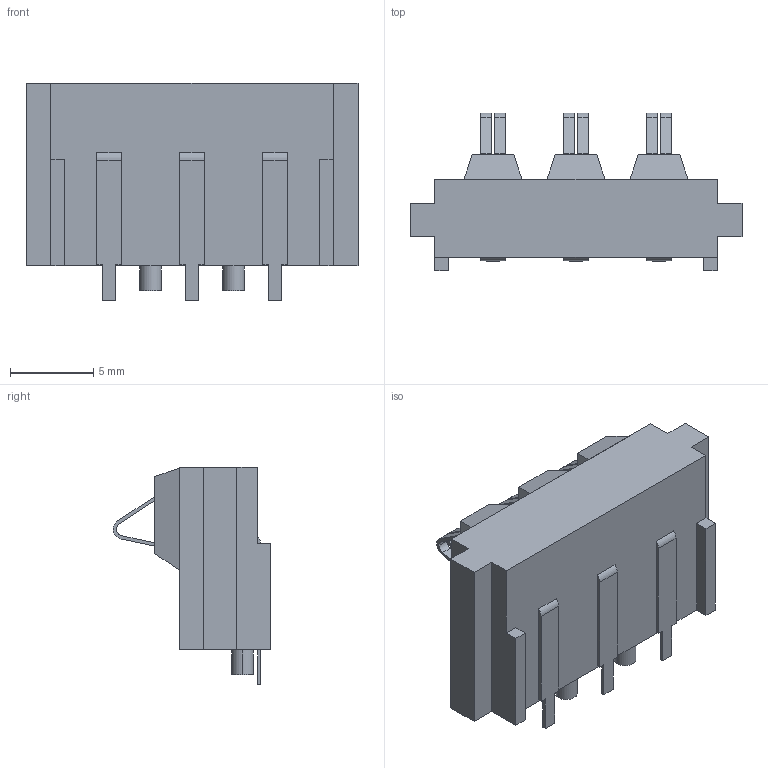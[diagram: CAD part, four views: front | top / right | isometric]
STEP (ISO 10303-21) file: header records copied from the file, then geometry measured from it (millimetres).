
FILE_DESCRIPTION (( 'STEP AP214' ), '1' );
FILE_NAME ('GC02-03-2F.STEP', '2026-06-23T02:43:55', ( '' ), ( '' ), 'SwSTEP 2.0', 'SolidWorks 2023', '' );
FILE_SCHEMA (( 'AUTOMOTIVE_DESIGN' ));
Length unit declared in the file: millimetre
Products named in the file (1): GC02-03-2F
Bounding box: 20 x 9.5 x 13.1 mm (x, y, z)
Volume: 1042 mm3; surface area: 881.8 mm2
Topology: 1 solids, 1 shells, 137 faces, 384 edges, 254 vertices
Faces by surface type: plane 100, cylinder 37
Entity records: 4431 total; most frequent: CARTESIAN_POINT 776, ORIENTED_EDGE 768, DIRECTION 734, EDGE_CURVE 384, VECTOR 310, LINE 310, VERTEX_POINT 254, AXIS2_PLACEMENT_3D 212
